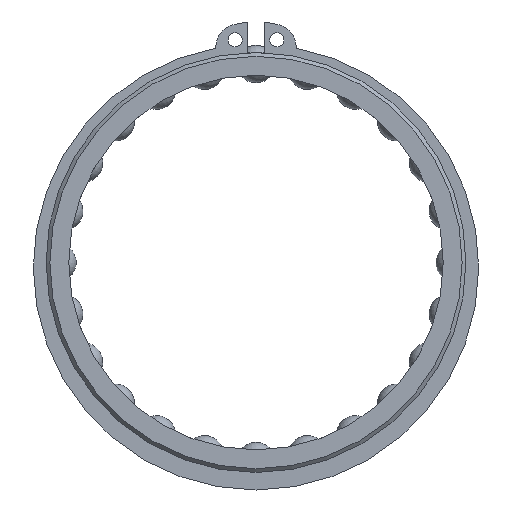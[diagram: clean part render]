
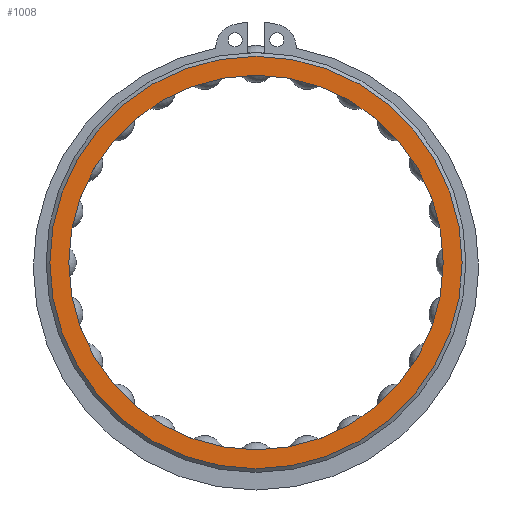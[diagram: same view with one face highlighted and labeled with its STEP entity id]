
A CAD part, left-side view. The second image highlights one B-rep face of the part: STEP entity #1008.
In plain terms, the highlighted planar face has unit normal (-1, 0, 0).
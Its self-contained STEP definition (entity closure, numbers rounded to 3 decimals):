
#66=FACE_BOUND('',#357,.T.);
#74=PLANE('',#1110);
#155=CIRCLE('',#1109,19.8);
#156=CIRCLE('',#1111,21.8);
#235=FACE_OUTER_BOUND('',#356,.T.);
#356=EDGE_LOOP('',(#755));
#357=EDGE_LOOP('',(#756));
#489=VERTEX_POINT('',#3324);
#490=VERTEX_POINT('',#3328);
#582=EDGE_CURVE('',#489,#489,#155,.T.);
#583=EDGE_CURVE('',#490,#490,#156,.T.);
#755=ORIENTED_EDGE('',*,*,#583,.F.);
#756=ORIENTED_EDGE('',*,*,#582,.T.);
#1008=ADVANCED_FACE('',(#235,#66),#74,.T.);
#1109=AXIS2_PLACEMENT_3D('',#3326,#1276,#1277);
#1110=AXIS2_PLACEMENT_3D('',#3327,#1278,#1279);
#1111=AXIS2_PLACEMENT_3D('',#3329,#1280,#1281);
#1276=DIRECTION('center_axis',(1.,0.,0.));
#1277=DIRECTION('ref_axis',(0.,0.,-1.));
#1278=DIRECTION('center_axis',(-1.,0.,0.));
#1279=DIRECTION('ref_axis',(0.,0.,1.));
#1280=DIRECTION('center_axis',(1.,0.,0.));
#1281=DIRECTION('ref_axis',(0.,0.,-1.));
#3324=CARTESIAN_POINT('',(0.,-19.8,0.));
#3326=CARTESIAN_POINT('Origin',(0.,0.,0.));
#3327=CARTESIAN_POINT('Origin',(0.,21.8,0.));
#3328=CARTESIAN_POINT('',(0.,-21.8,0.));
#3329=CARTESIAN_POINT('Origin',(0.,0.,0.));
